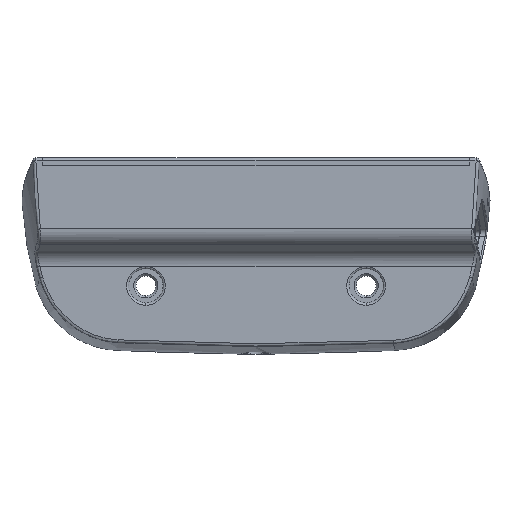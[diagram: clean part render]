
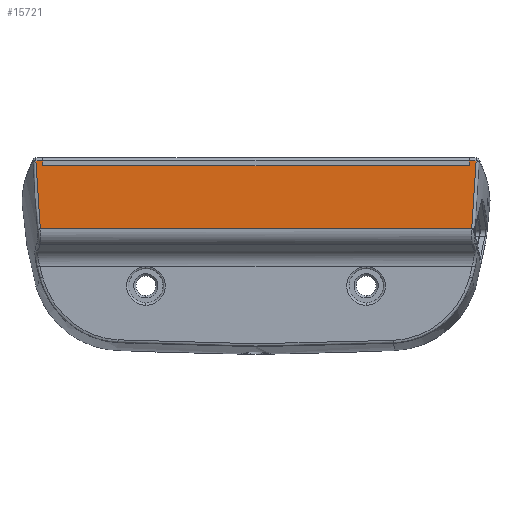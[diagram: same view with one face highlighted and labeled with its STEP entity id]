
A CAD part, front view. The second image highlights one B-rep face of the part: STEP entity #15721.
In plain terms, the highlighted planar face has unit normal (0, -1, 0).
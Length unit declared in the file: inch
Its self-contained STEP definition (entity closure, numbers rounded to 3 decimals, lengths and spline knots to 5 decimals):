
#1282 = EDGE_CURVE ( 'NONE', #26269, #32002, #6873, .T. ) ;
#1499 = CARTESIAN_POINT ( 'NONE',  ( 1.96323, -0.37402, 0.93275 ) ) ;
#2779 = CARTESIAN_POINT ( 'NONE',  ( 1.90808, -0.37402, 1.12123 ) ) ;
#3392 = CARTESIAN_POINT ( 'NONE',  ( -2.1063, -0.37402, 0.52863 ) ) ;
#3416 = CARTESIAN_POINT ( 'NONE',  ( 1.92796, -0.37402, 0.52863 ) ) ;
#3495 = VERTEX_POINT ( 'NONE', #37551 ) ;
#3549 = CARTESIAN_POINT ( 'NONE',  ( -1.95065, -0.37402, 0.73036 ) ) ;
#4297 = B_SPLINE_CURVE_WITH_KNOTS ( 'NONE', 3,
 ( #23172, #2779, #39787, #33264 ),
 .UNSPECIFIED., .F., .F.,
 ( 4, 4 ),
 ( 0.00169, 0.00279 ),
 .UNSPECIFIED. ) ;
#4780 = CARTESIAN_POINT ( 'NONE',  ( -1.90792, -0.37402, 1.10678 ) ) ;
#6873 = LINE ( 'NONE', #11910, #32827 ) ;
#8247 = VERTEX_POINT ( 'NONE', #3416 ) ;
#10136 = CARTESIAN_POINT ( 'NONE',  ( 1.90771, -0.37402, 1.09233 ) ) ;
#11009 = CARTESIAN_POINT ( 'NONE',  ( -1.96717, -0.37402, 1.13569 ) ) ;
#11832 = CARTESIAN_POINT ( 'NONE',  ( 1.96643, -0.37402, 1.03414 ) ) ;
#11864 = VERTEX_POINT ( 'NONE', #25560 ) ;
#11910 = CARTESIAN_POINT ( 'NONE',  ( -2.1063, -0.37402, 1.09233 ) ) ;
#13198 = EDGE_LOOP ( 'NONE', ( #31118, #26209, #24485, #17638, #15636, #29626, #21020, #18367 ) ) ;
#13728 = EDGE_CURVE ( 'NONE', #27378, #8247, #35796, .T. ) ;
#13915 = CARTESIAN_POINT ( 'NONE',  ( -2.1063, -0.37402, 1.13569 ) ) ;
#14019 = CARTESIAN_POINT ( 'NONE',  ( -1.90771, -0.37402, 1.09233 ) ) ;
#14065 = DIRECTION ( 'NONE',  ( -1., 0., 0. ) ) ;
#14182 = EDGE_CURVE ( 'NONE', #11864, #3495, #37697, .T. ) ;
#14630 = PLANE ( 'NONE',  #40507 ) ;
#14662 = CARTESIAN_POINT ( 'NONE',  ( 1.96717, -0.37402, 1.13569 ) ) ;
#15636 = ORIENTED_EDGE ( 'NONE', *, *, #36931, .F. ) ;
#15721 = ADVANCED_FACE ( 'NONE', ( #31769 ), #14630, .F. ) ;
#17638 = ORIENTED_EDGE ( 'NONE', *, *, #1282, .F. ) ;
#17907 = VERTEX_POINT ( 'NONE', #11009 ) ;
#18045 = CARTESIAN_POINT ( 'NONE',  ( -2.1063, -0.37402, 1.1811 ) ) ;
#18367 = ORIENTED_EDGE ( 'NONE', *, *, #13728, .T. ) ;
#21020 = ORIENTED_EDGE ( 'NONE', *, *, #27818, .T. ) ;
#21071 = CARTESIAN_POINT ( 'NONE',  ( -1.90818, -0.37402, 1.13569 ) ) ;
#21219 = CARTESIAN_POINT ( 'NONE',  ( -1.90771, -0.37402, 1.09233 ) ) ;
#21739 = VECTOR ( 'NONE', #26855, 39.37008 ) ;
#22284 = EDGE_CURVE ( 'NONE', #8247, #11864, #31565, .T. ) ;
#22638 = B_SPLINE_CURVE_WITH_KNOTS ( 'NONE', 3,
 ( #21071, #24735, #4780, #21219 ),
 .UNSPECIFIED., .F., .F.,
 ( 4, 4 ),
 ( 0.00617, 0.00727 ),
 .UNSPECIFIED. ) ;
#23172 = CARTESIAN_POINT ( 'NONE',  ( 1.90818, -0.37402, 1.13569 ) ) ;
#23792 = CARTESIAN_POINT ( 'NONE',  ( -1.96323, -0.37402, 0.93275 ) ) ;
#24345 = CARTESIAN_POINT ( 'NONE',  ( -1.90818, -0.37402, 1.13569 ) ) ;
#24485 = ORIENTED_EDGE ( 'NONE', *, *, #25204, .T. ) ;
#24733 = CARTESIAN_POINT ( 'NONE',  ( 1.92796, -0.37402, 0.52863 ) ) ;
#24735 = CARTESIAN_POINT ( 'NONE',  ( -1.90808, -0.37402, 1.12123 ) ) ;
#25204 = EDGE_CURVE ( 'NONE', #3495, #32002, #4297, .T. ) ;
#25560 = CARTESIAN_POINT ( 'NONE',  ( 1.96717, -0.37402, 1.13569 ) ) ;
#26209 = ORIENTED_EDGE ( 'NONE', *, *, #14182, .T. ) ;
#26269 = VERTEX_POINT ( 'NONE', #14019 ) ;
#26855 = DIRECTION ( 'NONE',  ( -1., 0., 0. ) ) ;
#27221 = CARTESIAN_POINT ( 'NONE',  ( -1.92796, -0.37402, 0.52863 ) ) ;
#27378 = VERTEX_POINT ( 'NONE', #28730 ) ;
#27818 = EDGE_CURVE ( 'NONE', #17907, #27378, #43368, .T. ) ;
#28444 = CARTESIAN_POINT ( 'NONE',  ( 1.94129, -0.37402, 0.62937 ) ) ;
#28730 = CARTESIAN_POINT ( 'NONE',  ( -1.92796, -0.37402, 0.52863 ) ) ;
#28964 = DIRECTION ( 'NONE',  ( 1., 0., 0. ) ) ;
#29626 = ORIENTED_EDGE ( 'NONE', *, *, #31466, .T. ) ;
#30219 = CARTESIAN_POINT ( 'NONE',  ( -1.94129, -0.37402, 0.62937 ) ) ;
#30791 = LINE ( 'NONE', #33384, #21739 ) ;
#30830 = VECTOR ( 'NONE', #30852, 39.37008 ) ;
#30852 = DIRECTION ( 'NONE',  ( -1., 0., 0. ) ) ;
#31118 = ORIENTED_EDGE ( 'NONE', *, *, #22284, .T. ) ;
#31466 = EDGE_CURVE ( 'NONE', #37642, #17907, #30791, .T. ) ;
#31565 = B_SPLINE_CURVE_WITH_KNOTS ( 'NONE', 3,
 ( #24733, #28444, #35272, #1499, #11832, #14662 ),
 .UNSPECIFIED., .F., .F.,
 ( 4, 2, 4 ),
 ( 0., 0.00773, 0.01545 ),
 .UNSPECIFIED. ) ;
#31769 = FACE_OUTER_BOUND ( 'NONE', #13198, .T. ) ;
#32002 = VERTEX_POINT ( 'NONE', #10136 ) ;
#32827 = VECTOR ( 'NONE', #28964, 39.37008 ) ;
#33264 = CARTESIAN_POINT ( 'NONE',  ( 1.90771, -0.37402, 1.09233 ) ) ;
#33384 = CARTESIAN_POINT ( 'NONE',  ( -2.1063, -0.37402, 1.13569 ) ) ;
#35272 = CARTESIAN_POINT ( 'NONE',  ( 1.95065, -0.37402, 0.73036 ) ) ;
#35796 = LINE ( 'NONE', #3392, #43803 ) ;
#36931 = EDGE_CURVE ( 'NONE', #37642, #26269, #22638, .T. ) ;
#37161 = DIRECTION ( 'NONE',  ( 1., 0., 0. ) ) ;
#37551 = CARTESIAN_POINT ( 'NONE',  ( 1.90818, -0.37402, 1.13569 ) ) ;
#37642 = VERTEX_POINT ( 'NONE', #24345 ) ;
#37697 = LINE ( 'NONE', #13915, #30830 ) ;
#39787 = CARTESIAN_POINT ( 'NONE',  ( 1.90792, -0.37402, 1.10678 ) ) ;
#40442 = CARTESIAN_POINT ( 'NONE',  ( -1.96717, -0.37402, 1.13569 ) ) ;
#40507 = AXIS2_PLACEMENT_3D ( 'NONE', #18045, #41783, #14065 ) ;
#40725 = CARTESIAN_POINT ( 'NONE',  ( -1.96643, -0.37402, 1.03414 ) ) ;
#41783 = DIRECTION ( 'NONE',  ( 0., 1., 0. ) ) ;
#43368 = B_SPLINE_CURVE_WITH_KNOTS ( 'NONE', 3,
 ( #40442, #40725, #23792, #3549, #30219, #27221 ),
 .UNSPECIFIED., .F., .F.,
 ( 4, 2, 4 ),
 ( 0., 0.00773, 0.01545 ),
 .UNSPECIFIED. ) ;
#43803 = VECTOR ( 'NONE', #37161, 39.37008 ) ;
